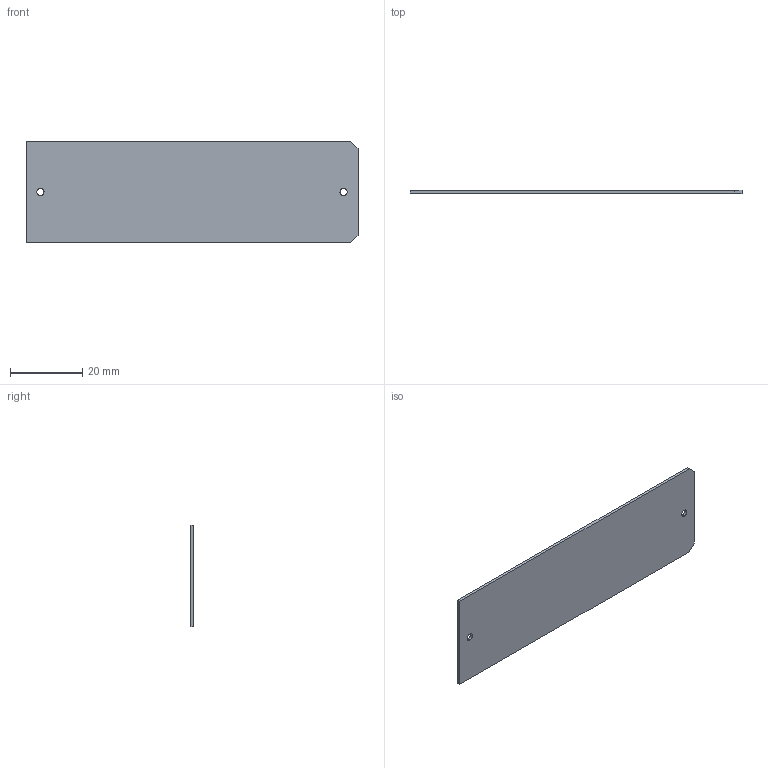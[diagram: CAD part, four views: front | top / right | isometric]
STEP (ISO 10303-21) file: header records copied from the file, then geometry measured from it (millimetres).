
FILE_DESCRIPTION (( 'STEP AP214' ), '1' );
FILE_NAME ('LBRX-00-080-6-POLARIZER-H.STEP', '2021-11-05T05:50:18', ( '' ), ( '' ), 'SwSTEP 2.0', 'SolidWorks 2021', '' );
FILE_SCHEMA (( 'AUTOMOTIVE_DESIGN' ));
Length unit declared in the file: millimetre
Products named in the file (1): LBRX-00-080-6-POLARIZER-H
Bounding box: 92 x 0.8 x 28.2 mm (x, y, z)
Volume: 2067.3 mm3; surface area: 5368.7 mm2
Topology: 1 solids, 1 shells, 12 faces, 30 edges, 20 vertices
Faces by surface type: plane 8, cylinder 4
Entity records: 404 total; most frequent: DIRECTION 64, CARTESIAN_POINT 63, ORIENTED_EDGE 60, EDGE_CURVE 30, VECTOR 22, LINE 22, AXIS2_PLACEMENT_3D 21, VERTEX_POINT 20
